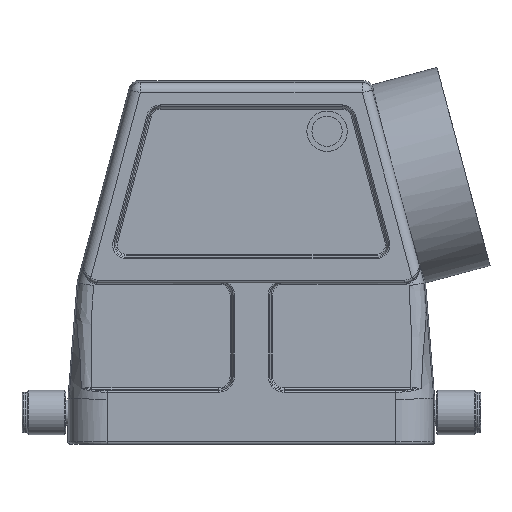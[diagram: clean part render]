
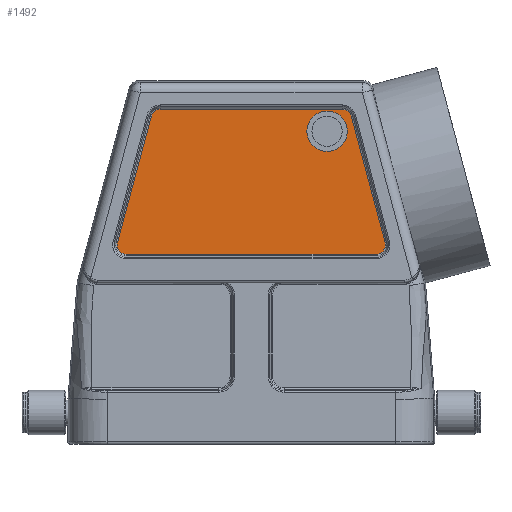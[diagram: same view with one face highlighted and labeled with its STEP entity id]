
A CAD part, front view. The second image highlights one B-rep face of the part: STEP entity #1492.
In plain terms, the highlighted planar face has unit normal (0, -1, 0).
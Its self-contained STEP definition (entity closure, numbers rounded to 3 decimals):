
#1324=FACE_BOUND('',#2579,.T.);
#1325=FACE_BOUND('',#2580,.T.);
#1492=ADVANCED_FACE('',(#1324,#1325),#1987,.F.);
#1987=PLANE('',#8981);
#2579=EDGE_LOOP('',(#4393,#4394,#4395,#4396,#4397,#4398,#4399,#4400));
#2580=EDGE_LOOP('',(#4401));
#3341=LINE('',#12038,#3865);
#3342=LINE('',#12043,#3866);
#3343=LINE('',#12047,#3867);
#3344=LINE('',#12051,#3868);
#3865=VECTOR('',#9824,1.);
#3866=VECTOR('',#9827,1.);
#3867=VECTOR('',#9830,1.);
#3868=VECTOR('',#9833,1.);
#4393=ORIENTED_EDGE('',*,*,#7375,.T.);
#4394=ORIENTED_EDGE('',*,*,#7376,.T.);
#4395=ORIENTED_EDGE('',*,*,#7377,.T.);
#4396=ORIENTED_EDGE('',*,*,#7378,.T.);
#4397=ORIENTED_EDGE('',*,*,#7379,.T.);
#4398=ORIENTED_EDGE('',*,*,#7380,.T.);
#4399=ORIENTED_EDGE('',*,*,#7381,.T.);
#4400=ORIENTED_EDGE('',*,*,#7382,.T.);
#4401=ORIENTED_EDGE('',*,*,#7383,.F.);
#6655=VERTEX_POINT('',#12039);
#6656=VERTEX_POINT('',#12040);
#6657=VERTEX_POINT('',#12042);
#6658=VERTEX_POINT('',#12044);
#6659=VERTEX_POINT('',#12046);
#6660=VERTEX_POINT('',#12048);
#6661=VERTEX_POINT('',#12050);
#6662=VERTEX_POINT('',#12052);
#6663=VERTEX_POINT('',#12055);
#7375=EDGE_CURVE('',#6655,#6656,#3341,.T.);
#7376=EDGE_CURVE('',#6656,#6657,#8501,.T.);
#7377=EDGE_CURVE('',#6657,#6658,#3342,.T.);
#7378=EDGE_CURVE('',#6658,#6659,#8502,.T.);
#7379=EDGE_CURVE('',#6659,#6660,#3343,.T.);
#7380=EDGE_CURVE('',#6660,#6661,#8503,.T.);
#7381=EDGE_CURVE('',#6661,#6662,#3344,.T.);
#7382=EDGE_CURVE('',#6662,#6655,#8504,.T.);
#7383=EDGE_CURVE('',#6663,#6663,#8505,.T.);
#8501=CIRCLE('',#8976,1.835);
#8502=CIRCLE('',#8977,1.835);
#8503=CIRCLE('',#8978,1.835);
#8504=CIRCLE('',#8979,1.835);
#8505=CIRCLE('',#8980,4.);
#8976=AXIS2_PLACEMENT_3D('',#12041,#9825,#9826);
#8977=AXIS2_PLACEMENT_3D('',#12045,#9828,#9829);
#8978=AXIS2_PLACEMENT_3D('',#12049,#9831,#9832);
#8979=AXIS2_PLACEMENT_3D('',#12053,#9834,#9835);
#8980=AXIS2_PLACEMENT_3D('',#12054,#9836,#9837);
#8981=AXIS2_PLACEMENT_3D('',#12056,#9838,#9839);
#9824=DIRECTION('',(-0.259,0.,0.966));
#9825=DIRECTION('',(0.,-1.,0.));
#9826=DIRECTION('',(0.,0.,1.));
#9827=DIRECTION('',(-1.,0.,0.));
#9828=DIRECTION('',(0.,-1.,0.));
#9829=DIRECTION('',(0.,0.,1.));
#9830=DIRECTION('',(-0.259,0.,-0.966));
#9831=DIRECTION('',(0.,-1.,0.));
#9832=DIRECTION('',(0.,0.,1.));
#9833=DIRECTION('',(1.,0.,0.));
#9834=DIRECTION('',(0.,-1.,0.));
#9835=DIRECTION('',(0.,0.,1.));
#9836=DIRECTION('',(0.,-1.,0.));
#9837=DIRECTION('',(0.,0.,-1.));
#9838=DIRECTION('',(0.,1.,0.));
#9839=DIRECTION('',(0.,0.,-1.));
#12038=CARTESIAN_POINT('',(19.8,-21.25,55.825));
#12039=CARTESIAN_POINT('',(26.498,-21.25,30.825));
#12040=CARTESIAN_POINT('',(19.8,-21.25,55.825));
#12041=CARTESIAN_POINT('',(18.027,-21.25,55.35));
#12042=CARTESIAN_POINT('',(18.027,-21.25,57.185));
#12043=CARTESIAN_POINT('',(-18.027,-21.25,57.185));
#12044=CARTESIAN_POINT('',(-18.027,-21.25,57.185));
#12045=CARTESIAN_POINT('',(-18.027,-21.25,55.35));
#12046=CARTESIAN_POINT('',(-19.8,-21.25,55.825));
#12047=CARTESIAN_POINT('',(-26.498,-21.25,30.825));
#12048=CARTESIAN_POINT('',(-26.498,-21.25,30.825));
#12049=CARTESIAN_POINT('',(-24.726,-21.25,30.35));
#12050=CARTESIAN_POINT('',(-24.726,-21.25,28.515));
#12051=CARTESIAN_POINT('',(24.726,-21.25,28.515));
#12052=CARTESIAN_POINT('',(24.726,-21.25,28.515));
#12053=CARTESIAN_POINT('',(24.726,-21.25,30.35));
#12054=CARTESIAN_POINT('',(15.,-21.25,52.85));
#12055=CARTESIAN_POINT('',(15.,-21.25,48.85));
#12056=CARTESIAN_POINT('',(18.027,-21.25,55.35));
